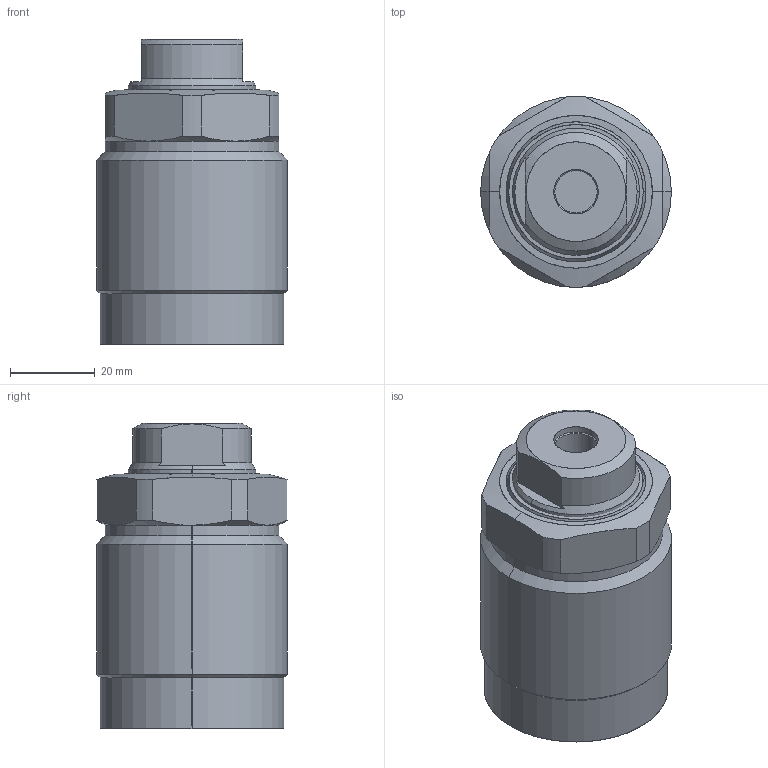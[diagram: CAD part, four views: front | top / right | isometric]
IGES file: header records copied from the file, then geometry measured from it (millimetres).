
Start section: SolidWorks IGES file using analytic representation for surfaces
Global section: file name: D:\abhilash\nijil\cylinder\Clasys1\dp converted\06\pt\0602\0102-0602.IGS; native system: SolidWorks 2010; preprocessor: SolidWorks 2010; author: nidheesh; date: 130730.113320; units: millimetre
Bounding box: 45 x 45 x 72 mm (x, y, z)
Surface area: 15808.6 mm2 (no closed solid volume)
Topology: 0 solids, 0 shells, 70 faces, 1200 edges, 1200 vertices
Faces by surface type: revolution 46, bspline 24
